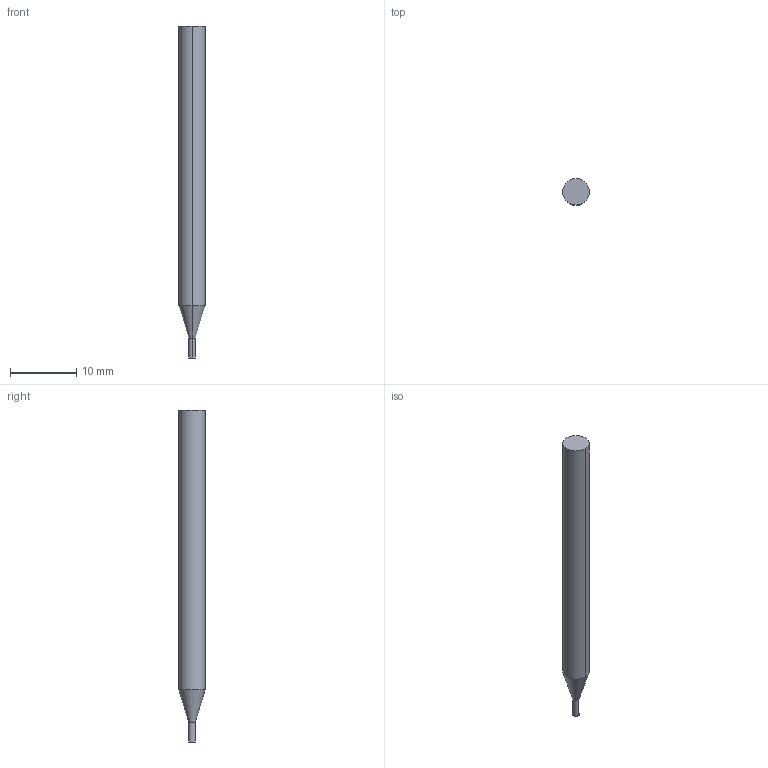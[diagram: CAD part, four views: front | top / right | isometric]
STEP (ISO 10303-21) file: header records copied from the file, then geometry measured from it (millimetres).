
FILE_DESCRIPTION((' '),'2;1');
FILE_NAME( '3MVRM0100AH.stp', '2026-01-21T19:05:55', (' '), ('--- Datakit www.datakit.com---'), ' Datakit CrossCadWare V2025.4 Sep 19 2025', 'Mastercam 2027', ' ');
FILE_SCHEMA(('AUTOMOTIVE_DESIGN { 1 0 10303 214 1 1 1 1 }'));
Length unit declared in the file: inch
Products named in the file (1): 3MVRM0100AH
Bounding box: 4 x 4 x 50 mm (x, y, z)
Volume: 558.4 mm3; surface area: 592.1 mm2
Topology: 1 solids, 1 shells, 8 faces, 14 edges, 8 vertices
Faces by surface type: cylinder 4, plane 2, cone 2
Entity records: 264 total; most frequent: DIRECTION 48, CARTESIAN_POINT 35, ORIENTED_EDGE 28, AXIS2_PLACEMENT_3D 21, EDGE_CURVE 14, VERTEX_POINT 8, CIRCLE 8, EDGE_LOOP 8
